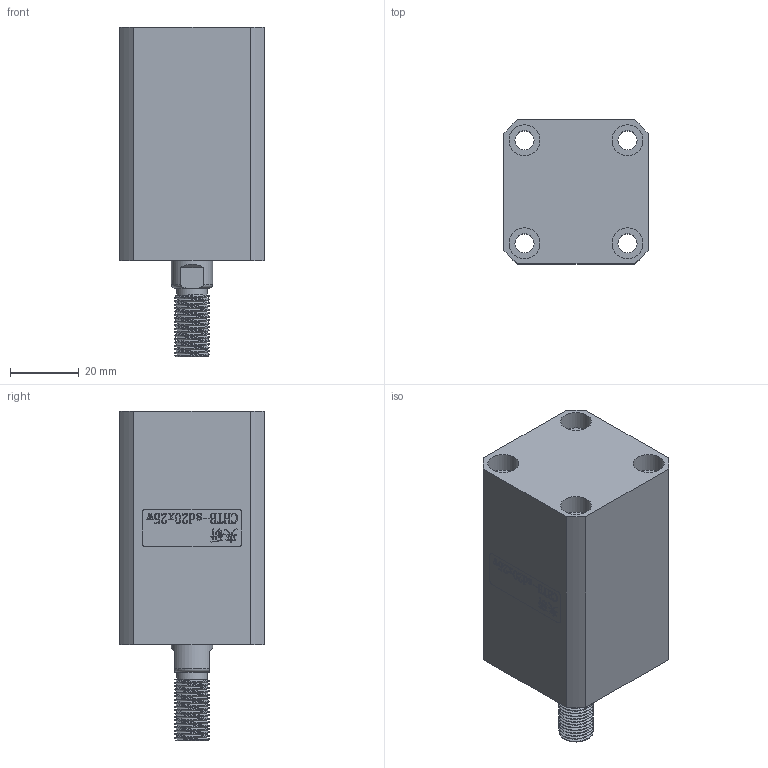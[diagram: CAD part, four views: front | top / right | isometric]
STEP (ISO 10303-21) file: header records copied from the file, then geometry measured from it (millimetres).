
FILE_DESCRIPTION(/* description */ (''),/* implementation_level */ '2;1');
FILE_NAME(/* name */ 'CHTB-sd20x25w.stp',/* time_stamp */ '2022-04-29T15:16:51+08:00',/* author */ (''),/* organization */ (''),/* preprocessor_version */ 'ST-DEVELOPER v16.7',/* originating_system */ 'SIEMENS PLM Software NX 12.0',/* authorisation */ '');
FILE_SCHEMA (('AUTOMOTIVE_DESIGN { 1 0 10303 214 3 1 1 1 }'));
Length unit declared in the file: millimetre
Products named in the file (1): CHTB-sd20x25w
Bounding box: 42 x 42 x 96 mm (x, y, z)
Volume: 103823.1 mm3; surface area: 33553 mm2
Topology: 3 solids, 3 shells, 457 faces, 1305 edges, 899 vertices
Faces by surface type: plane 279, extrusion 95, cylinder 49, torus 18, bspline 11, cone 5
Full cylindrical faces by diameter (mm): 3 x4, 5.6 x4, 7.9 x2, 9 x9, 12 x2, 16 x2, 18 x1, 20 x5, 27 x9
Entity records: 24094 total; most frequent: CARTESIAN_POINT 10861, ORIENTED_EDGE 2438, DIRECTION 1759, EDGE_CURVE 1219, VERTEX_POINT 876, VECTOR 873, LINE 778, EDGE_LOOP 559
